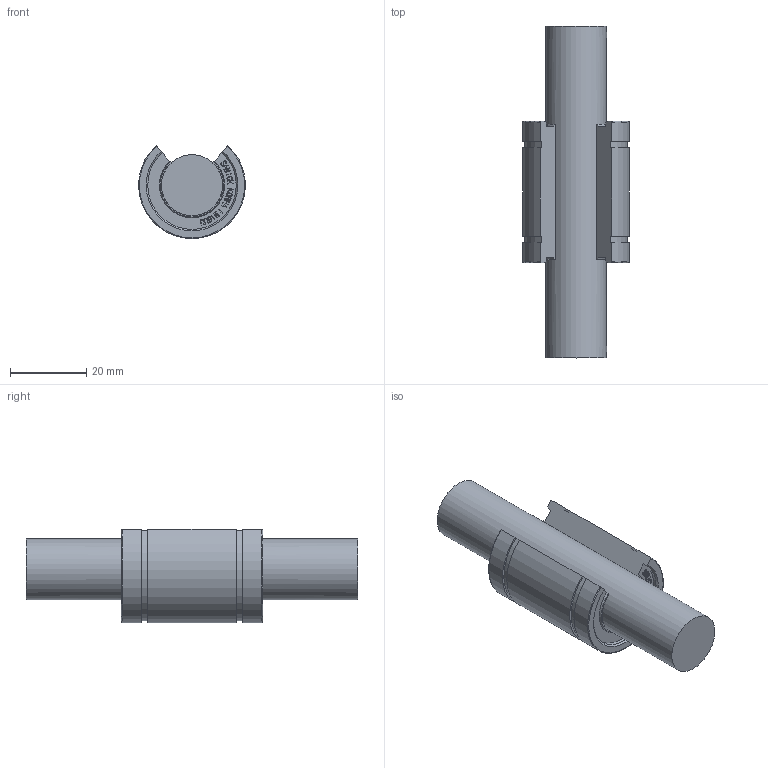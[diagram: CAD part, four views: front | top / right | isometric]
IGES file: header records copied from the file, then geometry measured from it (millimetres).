
Global section: file name: No Iges File Name specified; native system: Autodesk Inventor 2012; preprocessor: AutoDesk Inventor Iges Exporter R2012; author: user2; date: 20130206.154644; units: millimetre
Bounding box: 27.99 x 87 x 24.41 mm (x, y, z)
Volume: 28677.3 mm3; surface area: 7260.1 mm2
Topology: 1 solids, 1 shells, 828 faces, 2346 edges, 1564 vertices
Faces by surface type: bspline 588, plane 226, cylinder 6, revolution 4, cone 2, torus 2
Full cylindrical faces by diameter (mm): 16 x1
